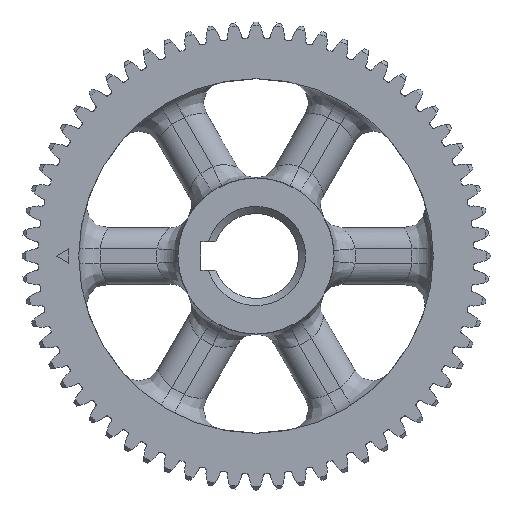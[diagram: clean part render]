
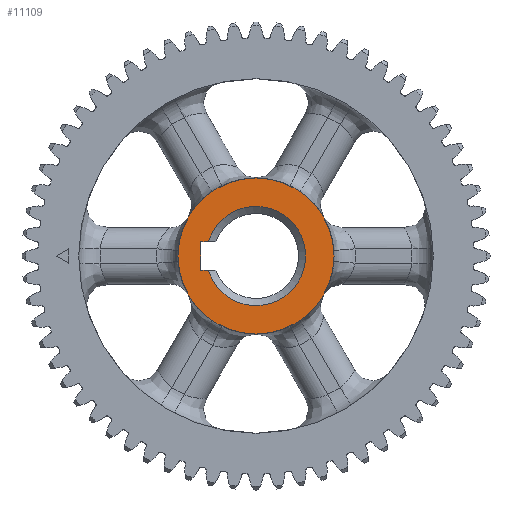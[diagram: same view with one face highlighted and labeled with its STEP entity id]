
A CAD part, left-side view. The second image highlights one B-rep face of the part: STEP entity #11109.
In plain terms, the highlighted planar face has unit normal (-1, 0, 0).
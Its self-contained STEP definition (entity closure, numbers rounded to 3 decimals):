
#387=FACE_BOUND('',#3145,.T.);
#790=CIRCLE('',#11143,7.);
#815=CIRCLE('',#11180,11.);
#2531=FACE_OUTER_BOUND('',#3144,.T.);
#3144=EDGE_LOOP('',(#10086));
#3145=EDGE_LOOP('',(#10087,#10088,#10089,#10090));
#3170=LINE('',#16394,#3610);
#3172=LINE('',#16407,#3612);
#3175=LINE('',#16412,#3615);
#3610=VECTOR('',#12766,10.);
#3612=VECTOR('',#12778,10.);
#3615=VECTOR('',#12783,10.);
#4042=VERTEX_POINT('',#16372);
#4043=VERTEX_POINT('',#16376);
#4048=VERTEX_POINT('',#16392);
#4051=VERTEX_POINT('',#16406);
#4092=VERTEX_POINT('',#16776);
#5206=EDGE_CURVE('',#4042,#4043,#790,.T.);
#5213=EDGE_CURVE('',#4042,#4048,#3170,.T.);
#5218=EDGE_CURVE('',#4051,#4043,#3172,.T.);
#5221=EDGE_CURVE('',#4048,#4051,#3175,.T.);
#5275=EDGE_CURVE('',#4092,#4092,#815,.T.);
#10086=ORIENTED_EDGE('',*,*,#5275,.F.);
#10087=ORIENTED_EDGE('',*,*,#5206,.F.);
#10088=ORIENTED_EDGE('',*,*,#5213,.T.);
#10089=ORIENTED_EDGE('',*,*,#5221,.T.);
#10090=ORIENTED_EDGE('',*,*,#5218,.T.);
#10504=PLANE('',#12717);
#11109=ADVANCED_FACE('',(#2531,#387),#10504,.T.);
#11143=AXIS2_PLACEMENT_3D('',#16377,#12757,#12758);
#11180=AXIS2_PLACEMENT_3D('',#16778,#12846,#12847);
#12717=AXIS2_PLACEMENT_3D('',#22397,#16327,#16328);
#12757=DIRECTION('center_axis',(-1.,0.,0.));
#12758=DIRECTION('ref_axis',(0.,-1.,0.));
#12766=DIRECTION('',(0.,1.,0.));
#12778=DIRECTION('',(0.,-1.,0.));
#12783=DIRECTION('',(0.,0.,1.));
#12846=DIRECTION('center_axis',(1.,0.,0.));
#12847=DIRECTION('ref_axis',(0.,0.,-1.));
#16327=DIRECTION('center_axis',(-1.,0.,0.));
#16328=DIRECTION('ref_axis',(0.,0.,1.));
#16372=CARTESIAN_POINT('',(-8.,6.708,-2.));
#16376=CARTESIAN_POINT('',(-8.,6.708,2.));
#16377=CARTESIAN_POINT('Origin',(-8.,0.,0.));
#16392=CARTESIAN_POINT('',(-8.,7.8,-2.));
#16394=CARTESIAN_POINT('',(-8.,9.4,-2.));
#16406=CARTESIAN_POINT('',(-8.,7.8,2.));
#16407=CARTESIAN_POINT('',(-8.,8.328,2.));
#16412=CARTESIAN_POINT('',(-8.,7.8,1.));
#16776=CARTESIAN_POINT('',(-8.,-11.,0.));
#16778=CARTESIAN_POINT('Origin',(-8.,0.,0.));
#22397=CARTESIAN_POINT('Origin',(-8.,11.,0.));
